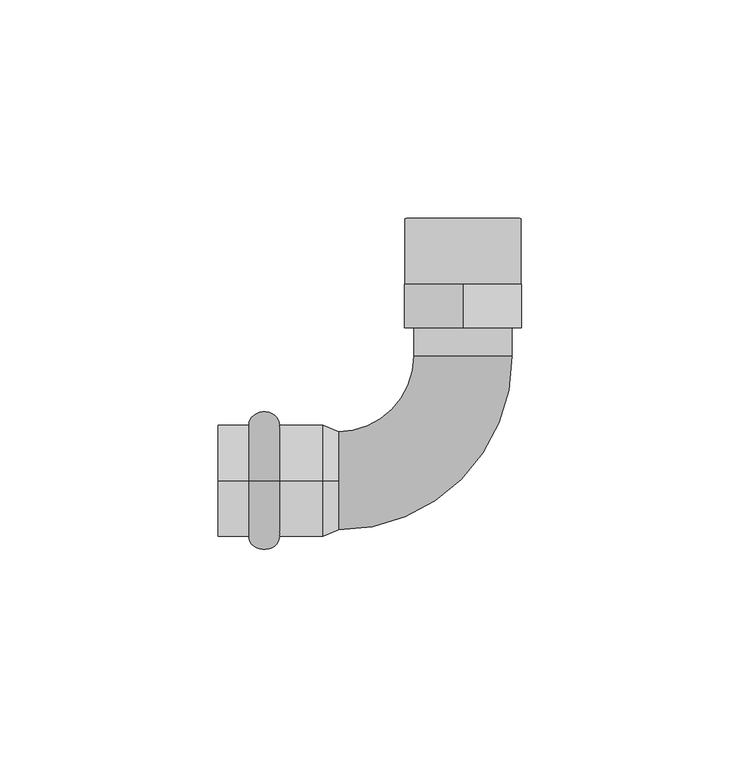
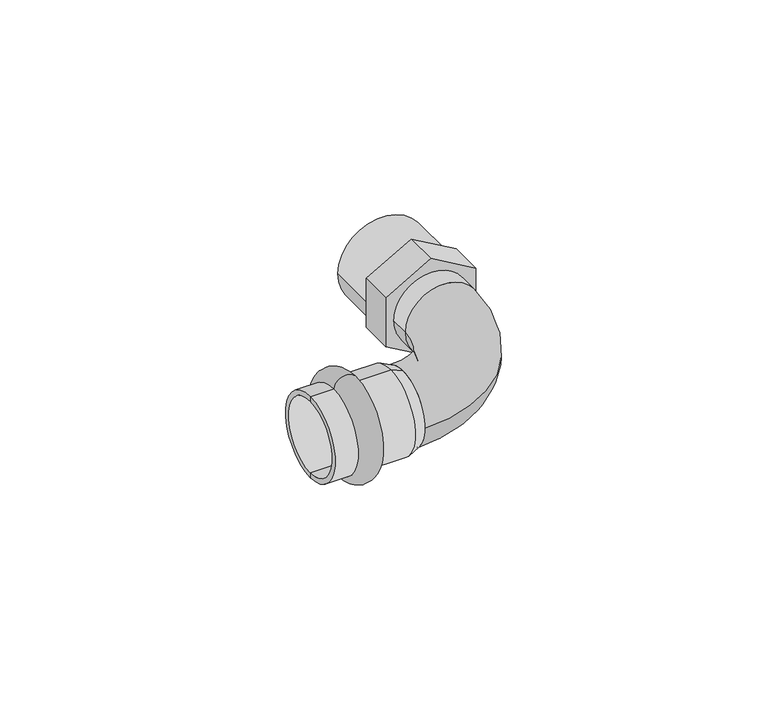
"""IFC4 building model written with IfcOpenShell, lengths in millimetres: pipe fitting geometry."""

from ifc_helpers import new_model, si_unit, point, frame, frame_2d, origin, place, context, project, spatial, polyline, circle_curve, ellipse_curve, trimmed, segment, composite_curve, outline, extrude, source, transform, mapped, element, save
from ifc_brep_helpers import plane_surface, cylinder_surface, revolved_surface, advanced_brep


def pipe_fitting_f90f892e(model_context):
    return source(origin(), model_context, "Body", "SolidModel", [
        advanced_brep(
        [(-17.0, 0.0, 12.75), (-17.0, 0.0, -12.75), (-10.0, 0.0, -12.75), (-10.0, 0.0, 12.75)],
        [
            (0, 1, circle_curve(frame((-17.0, 0.0, 0.0), z_axis=(-1.0, 0.0, 0.0), x_axis=(0.0, 0.0, -1.0)), 12.75)),
            (1, 2),
            (2, 3, circle_curve(frame((-10.0, 0.0, 0.0), z_axis=(1.0, 0.0, 0.0), x_axis=(0.0, 0.0, -1.0)), 12.75)),
            (3, 0),
            (1, 0, circle_curve(frame((-17.0, 0.0, 0.0), z_axis=(-1.0, 0.0, 0.0), x_axis=(0.0, 0.0, -1.0)), 12.75)),
            (3, 2, circle_curve(frame((-10.0, 0.0, 0.0), z_axis=(1.0, 0.0, 0.0), x_axis=(0.0, 0.0, -1.0)), 12.75)),
            (2, 1, ellipse_curve(frame((-13.5, 0.0, -12.75), z_axis=(0.0, 1.0, 0.0), x_axis=(-1.0, 0.0, 0.0)), 3.5, 3.1)),
            (0, 3, ellipse_curve(frame((-13.5, 0.0, 12.75), z_axis=(0.0, 1.0, 0.0), x_axis=(-1.0, 0.0, 0.0)), 3.5, 3.1)),
        ],
        [
            revolved_surface(polyline([(-10.0, 0.0, -12.75), (-17.0, 0.0, -12.75)]), (3.0, 0.0, 0.0), (1.0, 0.0, 0.0)),
            revolved_surface(trimmed(ellipse_curve(frame((-13.5, 0.0, -12.75), z_axis=(0.0, -1.0, 0.0), x_axis=(-1.0, 0.0, 0.0)), 3.5, 3.1), [point((-17.0, 0.0, -12.75))], [point((-10.0, 0.0, -12.75))], True, "CARTESIAN"), (3.0, 0.0, 0.0), (1.0, 0.0, 0.0)),
        ],
        [
            (0, [[1, 2, 3, 4]]),
            (0, [[5, -4, 6, -2]]),
            (1, [[-3, 7, -1, 8]]),
            (1, [[-6, -8, -5, -7]]),
        ],
    ),
        advanced_brep(
        [(3.5337785, 0.0, 11.25), (3.5337785, 0.0, -11.25), (0.0, 0.0, -12.75), (0.0, 0.0, 12.75), (-24.0, 0.0, 11.25), (-24.0, 0.0, -11.25), (-24.0, 0.0, 12.75), (-24.0, 0.0, -12.75)],
        [
            (0, 1, circle_curve(frame((3.5337785, 0.0, 0.0), z_axis=(-1.0, 0.0, 0.0), x_axis=(0.0, 0.0, -1.0)), 11.25)),
            (1, 2),
            (2, 3, circle_curve(frame((0.0, 0.0, 0.0), z_axis=(1.0, 0.0, 0.0), x_axis=(0.0, 0.0, -1.0)), 12.75)),
            (3, 0),
            (1, 0, circle_curve(frame((3.5337785, 0.0, 0.0), z_axis=(-1.0, 0.0, 0.0), x_axis=(0.0, 0.0, -1.0)), 11.25)),
            (3, 2, circle_curve(frame((0.0, 0.0, 0.0), z_axis=(1.0, 0.0, 0.0), x_axis=(0.0, 0.0, -1.0)), 12.75)),
            (4, 5, circle_curve(frame((-24.0, 0.0, 0.0), z_axis=(-1.0, 0.0, 0.0), x_axis=(0.0, 0.0, -1.0)), 11.25)),
            (5, 1),
            (0, 4),
            (5, 4, circle_curve(frame((-24.0, 0.0, 0.0), z_axis=(-1.0, 0.0, 0.0), x_axis=(0.0, 0.0, -1.0)), 11.25)),
            (6, 7, circle_curve(frame((-24.0, 0.0, 0.0), z_axis=(-1.0, 0.0, 0.0), x_axis=(0.0, 0.0, -1.0)), 12.75)),
            (7, 5),
            (4, 6),
            (7, 6, circle_curve(frame((-24.0, 0.0, 0.0), z_axis=(-1.0, 0.0, 0.0), x_axis=(0.0, 0.0, -1.0)), 12.75)),
            (2, 7),
            (6, 3),
        ],
        [
            revolved_surface(polyline([(0.0, 0.0, -12.75), (3.5337785, 0.0, -11.25)]), (3.0, 0.0, 0.0), (1.0, 0.0, 0.0)),
            revolved_surface(polyline([(3.5337785, 0.0, -11.25), (-24.0, 0.0, -11.25)]), (3.0, 0.0, 0.0), (1.0, 0.0, 0.0)),
            plane_surface(frame((-24.0, 0.0, 0.0), z_axis=(-1.0, 0.0, 0.0), x_axis=(0.0, 0.0, -1.0))),
            cylinder_surface(frame((3.0, 0.0, 0.0), z_axis=(1.0, 0.0, 0.0), x_axis=(0.0, 0.0, -1.0)), 12.75),
        ],
        [
            (0, [[1, 2, 3, 4]]),
            (0, [[5, -4, 6, -2]]),
            (1, [[7, 8, -1, 9]]),
            (1, [[10, -9, -5, -8]]),
            (2, [[11, 12, -7, 13]]),
            (2, [[14, -13, -10, -12]]),
            (3, [[-3, 15, -11, 16]]),
            (3, [[-6, -16, -14, -15]]),
        ],
    ),
        extrude(outline(polyline([(7.7076261, 45.35), (15.4152522, 32.0), (7.7076261, 18.65), (-7.7076261, 18.65), (-15.4152522, 32.0), (-7.7076261, 45.35), (7.7076261, 45.35)]), holes=[polyline([(-3.6084392, 25.75), (3.6084392, 25.75), (7.2168784, 32.0), (3.6084392, 38.25), (-3.6084392, 38.25), (-7.2168784, 32.0), (-3.6084392, 25.75)])]), frame((0.0, 35.0, 0.0), z_axis=(0.0, 1.0, 0.0), x_axis=(0.0, 0.0, 1.0)), (0.0, 0.0, 1.0), 10.0),
        extrude(outline(composite_curve([segment(trimmed(circle_curve(frame_2d((0.0, 32.0)), 13.25), [point((0.0, 18.75))], [point((0.0, 45.25))], False, "CARTESIAN"), True, "CONTINUOUS"), segment(trimmed(circle_curve(frame_2d((0.0, 32.0)), 13.25), [point((0.0, 45.25))], [point((0.0, 18.75))], False, "CARTESIAN"), True, "CONTINUOUS")], self_intersect=False)), frame((0.0, 45.0, 0.0), z_axis=(0.0, 1.0, 0.0), x_axis=(0.0, 0.0, 1.0)), (0.0, 0.0, 1.0), 15.0),
        advanced_brep(
        [(0.0, -11.25, 0.0), (0.0, 11.25, 0.0), (3.5337785, -11.25, 0.0), (3.5337785, 11.25, 0.0), (20.75, 28.4662215, 0.0), (43.25, 28.4662215, 0.0), (43.25, 35.0, 0.0), (20.75, 35.0, 0.0)],
        [
            (0, 1, circle_curve(frame((0.0, 0.0, 0.0), z_axis=(-1.0, 0.0, 0.0), x_axis=(0.0, 1.0, 0.0)), 11.25)),
            (1, 0, circle_curve(frame((0.0, 0.0, 0.0), z_axis=(-1.0, 0.0, 0.0), x_axis=(0.0, 1.0, 0.0)), 11.25)),
            (0, 2),
            (2, 3, circle_curve(frame((3.5337785, 0.0, 0.0), z_axis=(-1.0, 0.0, 0.0), x_axis=(0.0, 1.0, 0.0)), 11.25)),
            (3, 1),
            (3, 2, circle_curve(frame((3.5337785, 0.0, 0.0), z_axis=(-1.0, 0.0, 0.0), x_axis=(0.0, 1.0, 0.0)), 11.25)),
            (4, 3, circle_curve(frame((3.5337785, 28.4662215, 0.0), z_axis=(0.0, 0.0, -1.0), x_axis=(0.0, -1.0, 0.0)), 17.2162215)),
            (2, 5, circle_curve(frame((3.5337785, 28.4662215, 0.0), z_axis=(0.0, 0.0, 1.0), x_axis=(0.0, -1.0, 0.0)), 39.7162215)),
            (5, 4, circle_curve(frame((32.0, 28.4662215, 0.0), z_axis=(0.0, -1.0, 0.0), x_axis=(-1.0, 0.0, 0.0)), 11.25)),
            (4, 5, circle_curve(frame((32.0, 28.4662215, 0.0), z_axis=(0.0, -1.0, 0.0), x_axis=(-1.0, 0.0, 0.0)), 11.25)),
            (6, 7, circle_curve(frame((32.0, 35.0, 0.0), z_axis=(0.0, 1.0, 0.0), x_axis=(-1.0, 0.0, 0.0)), 11.25)),
            (7, 6, circle_curve(frame((32.0, 35.0, 0.0), z_axis=(0.0, 1.0, 0.0), x_axis=(-1.0, 0.0, 0.0)), 11.25)),
            (5, 6),
            (7, 4),
        ],
        [
            plane_surface(frame((0.0, 0.0, 0.0), z_axis=(-1.0, 0.0, 0.0), x_axis=(0.0, 0.0, 1.0))),
            cylinder_surface(frame((0.0, 0.0, 0.0), z_axis=(-1.0, 0.0, 0.0), x_axis=(0.0, 1.0, 0.0)), 11.25),
            revolved_surface(trimmed(ellipse_curve(frame((3.5337785, 0.0, 0.0), z_axis=(-1.0, 0.0, 0.0), x_axis=(0.0, 1.0, 0.0)), 11.25, 11.25), [point((3.5337785, -11.25, 0.0))], [point((3.5337785, 11.25, 0.0))], True, "CARTESIAN"), (3.5337785, 28.4662215, 0.0), (0.0, 0.0, 1.0)),
            revolved_surface(trimmed(ellipse_curve(frame((3.5337785, 0.0, 0.0), z_axis=(-1.0, 0.0, 0.0), x_axis=(0.0, 1.0, 0.0)), 11.25, 11.25), [point((3.5337785, 11.25, 0.0))], [point((3.5337785, -11.25, 0.0))], True, "CARTESIAN"), (3.5337785, 28.4662215, 0.0), (0.0, 0.0, 1.0)),
            plane_surface(frame((32.0, 35.0, 0.0), z_axis=(0.0, 1.0, 0.0), x_axis=(0.0, 0.0, 1.0))),
            cylinder_surface(frame((32.0, 28.4662215, 0.0), z_axis=(0.0, -1.0, 0.0), x_axis=(-1.0, 0.0, 0.0)), 11.25),
        ],
        [
            (0, [[1, 2]]),
            (1, [[-1, 3, 4, 5]]),
            (1, [[-2, -5, 6, -3]]),
            (2, [[7, -4, 8, 9]]),
            (3, [[-8, -6, -7, 10]]),
            (4, [[11, 12]]),
            (5, [[-9, 13, -12, 14]]),
            (5, [[-10, -14, -11, -13]]),
        ],
    ),
    ])


if __name__ == "__main__":
    model = new_model("IFC4")
    model_context = context("Model", 3, world=origin())
    ifc_project = project(units=[si_unit("LENGTHUNIT", "METRE", prefix="MILLI")], contexts=[model_context])
    site = spatial("IfcSite", under=ifc_project)
    building = spatial("IfcBuilding", under=site)
    placement = place(None, origin())
    pipe_fitting_shape = pipe_fitting_f90f892e(model_context)
    element("IfcPipeFitting", 1, ObjectType="РЕХАУ_Пресс Отвод НР : 22 x R 3/4\"", at=placement, inside=building, context=model_context, shape_type="MappedRepresentation", body=[
        mapped(pipe_fitting_shape, transform((0.0, 0.0, 0.0), x_axis=(1.0, 0.0, 0.0), y_axis=(0.0, 1.0, 0.0), z_axis=(0.0, 0.0, 1.0))),
    ])
    save(model, "model.ifc")
